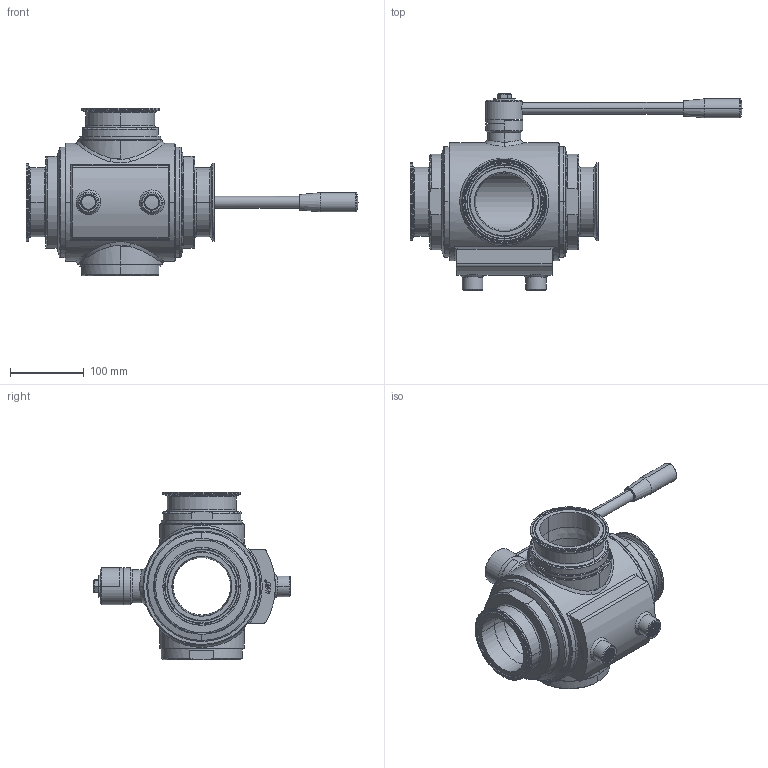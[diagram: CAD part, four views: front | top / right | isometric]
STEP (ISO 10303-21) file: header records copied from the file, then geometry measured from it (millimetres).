
FILE_DESCRIPTION((''),'2;1');
FILE_NAME('300130C64910_SW0001','2026-06-10T08:49:48',('tecnico2'),('CDM Tecnoconsulting'),'CREO PARAMETRIC BY PTC INC, 2024063','CREO PARAMETRIC BY PTC INC, 2024063','');
FILE_SCHEMA(('CONFIG_CONTROL_DESIGN','SHAPE_APPEARANCE_LAYERS_GROUPS'));
Length unit declared in the file: millimetre
Products named in the file (1): 300130C64910_SW0001
Bounding box: 451 x 266.8 x 228 mm (x, y, z)
Volume: 3005638 mm3; surface area: 490257.8 mm2
Topology: 1 solids, 1 shells, 1384 faces, 3619 edges, 2304 vertices
Faces by surface type: plane 566, cylinder 265, extrusion 221, cone 158, torus 88, bspline 80, sphere 6
Entity records: 79545 total; most frequent: CARTESIAN_POINT 25880, ORIENTED_EDGE 7202, DIRECTION 5758, PRESENTATION_STYLE_ASSIGNMENT 5207, STYLED_ITEM 3823, CURVE_STYLE 3822, EDGE_CURVE 3601, VERTEX_POINT 2304
